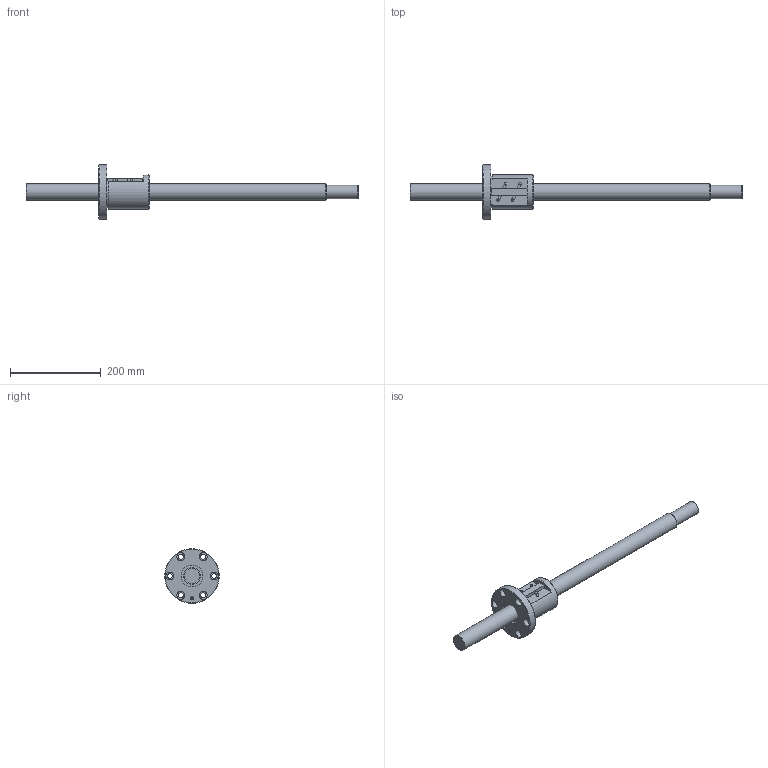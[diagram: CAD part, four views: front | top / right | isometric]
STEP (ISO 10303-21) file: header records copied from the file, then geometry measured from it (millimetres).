
FILE_DESCRIPTION(/* description */ ('STEP AP203'),/* implementation_level */ '2;1');
FILE_NAME(/* name */ 'BNF3610-5RRG1+730LC5A(00)',/* time_stamp */ '2024-07-02T11:06:08+02:00',/* author */ ('License CC BY-ND 4.0'),/* organization */ ('CADENAS'),/* preprocessor_version */ 'ST-DEVELOPER v19.3',/* originating_system */ 'PARTsolutions',/* authorisation */ ' ');
FILE_SCHEMA (('CONFIG_CONTROL_DESIGN'));
Length unit declared in the file: millimetre
Products named in the file (3): BNF3610-5RRG1+730LC5A(00); BNF3610-5RRG1+730LC5A(00)_shaft; BNF 3610-5RR_nut
Assembly tree (2 placements, depth 2):
  BNF3610-5RRG1+730LC5A(00)
    BNF3610-5RRG1+730LC5A(00)_shaft
    BNF 3610-5RR_nut
Bounding box: 730 x 120 x 120 mm (x, y, z)
Volume: 1156370.5 mm3; surface area: 152416.8 mm2
Topology: 2 solids, 2 shells, 68 faces, 155 edges, 101 vertices
Faces by surface type: cylinder 32, plane 24, cone 8, torus 4
Full cylindrical faces by diameter (mm): 4.5 x2, 4.917 x1, 4.998 x4, 11 x6, 17.5 x6, 30.3 x1, 36 x2, 48 x2, 75 x1, 120 x1
Entity records: 1763 total; most frequent: DIRECTION 312, CARTESIAN_POINT 297, ORIENTED_EDGE 202, AXIS2_PLACEMENT_3D 144, EDGE_LOOP 142, FACE_BOUND 142, EDGE_CURVE 101, VERTEX_POINT 87
